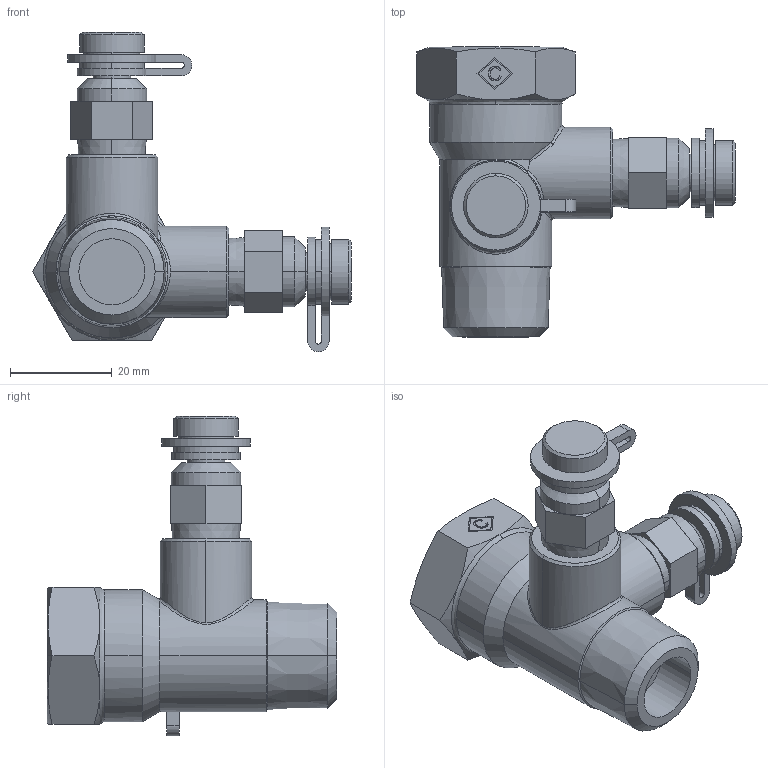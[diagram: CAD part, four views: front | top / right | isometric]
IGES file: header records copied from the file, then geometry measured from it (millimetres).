
Global section: file name: No Iges File Name specified; native system: AutoDesk Inventor R12.0; preprocessor: AutoDesk Inventor Iges Exporter R12.0; date: 20110111.150124; units: millimetre
Bounding box: 62.69 x 57 x 62.83 mm (x, y, z)
Volume: 36714.2 mm3; surface area: 10690.8 mm2
Topology: 1 solids, 1 shells, 156 faces, 364 edges, 229 vertices
Faces by surface type: plane 65, cylinder 33, cone 31, bspline 23, revolution 4
